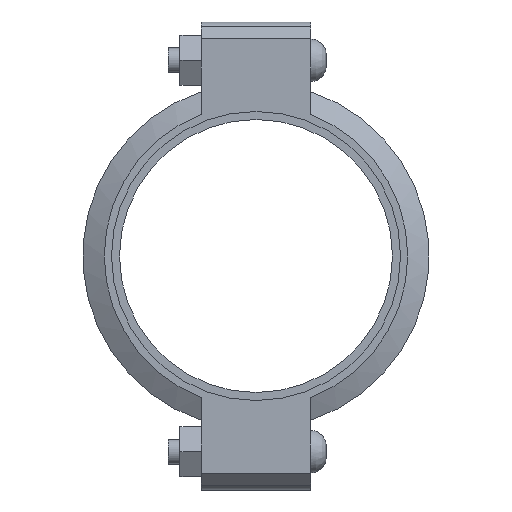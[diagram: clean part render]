
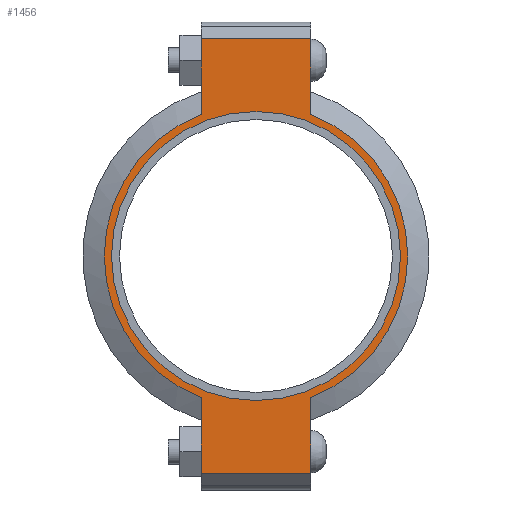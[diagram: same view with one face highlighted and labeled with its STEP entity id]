
A CAD part, left-side view. The second image highlights one B-rep face of the part: STEP entity #1456.
In plain terms, the highlighted planar face has unit normal (-1, 0, 0) as drawn and (0, 0, 1) by its records, which use the part's own axes.
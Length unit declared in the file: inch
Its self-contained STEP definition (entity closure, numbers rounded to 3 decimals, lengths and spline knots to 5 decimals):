
#136=LINE('',#2507,#227);
#144=LINE('',#2543,#235);
#151=LINE('',#2564,#242);
#160=LINE('',#2596,#251);
#161=LINE('',#2600,#252);
#162=LINE('',#2602,#253);
#227=VECTOR('',#2029,0.3937);
#235=VECTOR('',#2045,0.3937);
#242=VECTOR('',#2064,0.3937);
#251=VECTOR('',#2089,0.3937);
#252=VECTOR('',#2094,0.3937);
#253=VECTOR('',#2095,0.3937);
#305=FACE_BOUND('',#465,.T.);
#369=FACE_OUTER_BOUND('',#464,.T.);
#464=EDGE_LOOP('',(#1191,#1192,#1193,#1194,#1195,#1196,#1197,#1198));
#465=EDGE_LOOP('',(#1199));
#562=CIRCLE('',#1699,4.53);
#563=CIRCLE('',#1700,4.53);
#564=CIRCLE('',#1701,4.3125);
#667=VERTEX_POINT('',#2504);
#668=VERTEX_POINT('',#2506);
#679=VERTEX_POINT('',#2538);
#680=VERTEX_POINT('',#2542);
#687=VERTEX_POINT('',#2561);
#688=VERTEX_POINT('',#2563);
#698=VERTEX_POINT('',#2599);
#699=VERTEX_POINT('',#2601);
#700=VERTEX_POINT('',#2604);
#831=EDGE_CURVE('',#668,#667,#136,.T.);
#845=EDGE_CURVE('',#680,#679,#144,.T.);
#855=EDGE_CURVE('',#688,#687,#151,.T.);
#870=EDGE_CURVE('',#680,#667,#160,.T.);
#871=EDGE_CURVE('',#679,#688,#562,.T.);
#872=EDGE_CURVE('',#698,#687,#161,.T.);
#873=EDGE_CURVE('',#698,#699,#162,.T.);
#874=EDGE_CURVE('',#699,#668,#563,.T.);
#875=EDGE_CURVE('',#700,#700,#564,.T.);
#1191=ORIENTED_EDGE('',*,*,#870,.F.);
#1192=ORIENTED_EDGE('',*,*,#845,.T.);
#1193=ORIENTED_EDGE('',*,*,#871,.T.);
#1194=ORIENTED_EDGE('',*,*,#855,.T.);
#1195=ORIENTED_EDGE('',*,*,#872,.F.);
#1196=ORIENTED_EDGE('',*,*,#873,.T.);
#1197=ORIENTED_EDGE('',*,*,#874,.T.);
#1198=ORIENTED_EDGE('',*,*,#831,.T.);
#1199=ORIENTED_EDGE('',*,*,#875,.T.);
#1310=PLANE('',#1698);
#1456=ADVANCED_FACE('',(#369,#305),#1310,.T.);
#1698=AXIS2_PLACEMENT_3D('',#2597,#2090,#2091);
#1699=AXIS2_PLACEMENT_3D('',#2598,#2092,#2093);
#1700=AXIS2_PLACEMENT_3D('',#2603,#2096,#2097);
#1701=AXIS2_PLACEMENT_3D('',#2605,#2098,#2099);
#2029=DIRECTION('',(-1.,0.,0.));
#2045=DIRECTION('',(1.,0.,0.));
#2064=DIRECTION('',(1.,0.,0.));
#2089=DIRECTION('',(0.,1.,0.));
#2090=DIRECTION('center_axis',(0.,0.,1.));
#2091=DIRECTION('ref_axis',(1.,0.,0.));
#2092=DIRECTION('center_axis',(0.,0.,1.));
#2093=DIRECTION('ref_axis',(-1.,0.,0.));
#2094=DIRECTION('',(0.,-1.,0.));
#2095=DIRECTION('',(-1.,0.,0.));
#2096=DIRECTION('center_axis',(0.,0.,1.));
#2097=DIRECTION('ref_axis',(-1.,0.,0.));
#2098=DIRECTION('center_axis',(0.,0.,-1.));
#2099=DIRECTION('ref_axis',(-1.,0.,0.));
#2504=CARTESIAN_POINT('',(-6.485,1.63,1.16));
#2506=CARTESIAN_POINT('',(-4.22658,1.63,1.16));
#2507=CARTESIAN_POINT('',(-6.985,1.63,1.16));
#2538=CARTESIAN_POINT('',(-4.22658,-1.63,1.16));
#2542=CARTESIAN_POINT('',(-6.485,-1.63,1.16));
#2543=CARTESIAN_POINT('',(6.985,-1.63,1.16));
#2561=CARTESIAN_POINT('',(6.485,-1.63,1.16));
#2563=CARTESIAN_POINT('',(4.22658,-1.63,1.16));
#2564=CARTESIAN_POINT('',(6.985,-1.63,1.16));
#2596=CARTESIAN_POINT('',(-6.485,0.815,1.16));
#2597=CARTESIAN_POINT('Origin',(0.,0.,
1.16));
#2598=CARTESIAN_POINT('Origin',(0.,0.,1.16));
#2599=CARTESIAN_POINT('',(6.485,1.63,1.16));
#2600=CARTESIAN_POINT('',(6.485,-0.815,1.16));
#2601=CARTESIAN_POINT('',(4.22658,1.63,1.16));
#2602=CARTESIAN_POINT('',(-6.985,1.63,1.16));
#2603=CARTESIAN_POINT('Origin',(0.,0.,1.16));
#2604=CARTESIAN_POINT('',(4.3125,0.,1.16));
#2605=CARTESIAN_POINT('Origin',(0.,0.,1.16));
